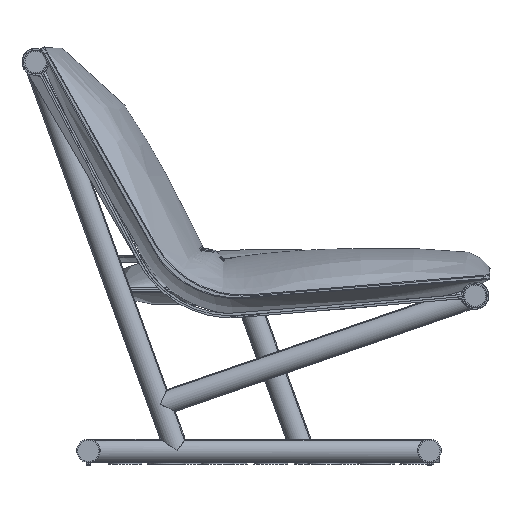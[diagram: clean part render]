
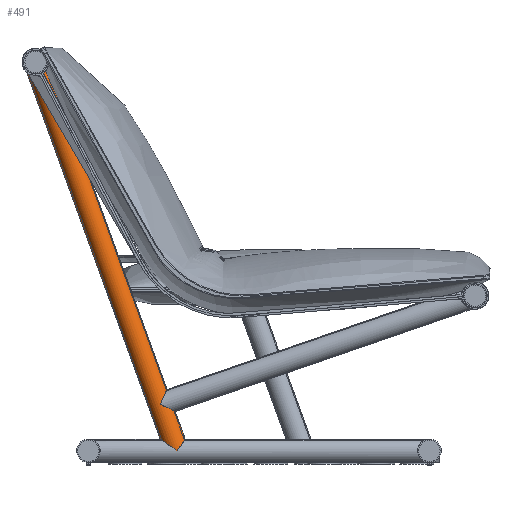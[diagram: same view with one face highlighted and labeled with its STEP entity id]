
A CAD part, left-side view. The second image highlights one B-rep face of the part: STEP entity #491.
In plain terms, the highlighted cylindrical face has radius 22.5 mm (diameter 45 mm), a partial arc.
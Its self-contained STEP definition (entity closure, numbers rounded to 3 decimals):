
#491=ADVANCED_FACE('',(#875),#5547,.T.);
#875=FACE_OUTER_BOUND('',#1273,.T.);
#1273=EDGE_LOOP('',(#2519,#2520,#2521,#2522,#2523,#2524,#2525,#2526,#2527));
#2519=ORIENTED_EDGE('',*,*,#3617,.T.);
#2520=ORIENTED_EDGE('',*,*,#3618,.T.);
#2521=ORIENTED_EDGE('',*,*,#3645,.T.);
#2522=ORIENTED_EDGE('',*,*,#3619,.T.);
#2523=ORIENTED_EDGE('',*,*,#3642,.T.);
#2524=ORIENTED_EDGE('',*,*,#3641,.T.);
#2525=ORIENTED_EDGE('',*,*,#3620,.T.);
#2526=ORIENTED_EDGE('',*,*,#3637,.T.);
#2527=ORIENTED_EDGE('',*,*,#3609,.F.);
#3609=EDGE_CURVE('',#5135,#5136,#5669,.T.);
#3617=EDGE_CURVE('',#5135,#5141,#4154,.T.);
#3618=EDGE_CURVE('',#5141,#5142,#5673,.T.);
#3619=EDGE_CURVE('',#5143,#5138,#4155,.T.);
#3620=EDGE_CURVE('',#5140,#5145,#4156,.T.);
#3637=EDGE_CURVE('',#5145,#5136,#5678,.T.);
#3641=EDGE_CURVE('',#5144,#5140,#5681,.T.);
#3642=EDGE_CURVE('',#5138,#5144,#5682,.T.);
#3645=EDGE_CURVE('',#5142,#5143,#5685,.T.);
#4154=(
BOUNDED_CURVE()
B_SPLINE_CURVE(1,(#31823,#31824),.UNSPECIFIED.,.F.,.F.)
B_SPLINE_CURVE_WITH_KNOTS((2,2),(0.,762.5),.UNSPECIFIED.)
CURVE()
GEOMETRIC_REPRESENTATION_ITEM()
RATIONAL_B_SPLINE_CURVE((1.,1.))
REPRESENTATION_ITEM('')
);
#4155=(
BOUNDED_CURVE()
B_SPLINE_CURVE(1,(#31835,#31836),.UNSPECIFIED.,.F.,.F.)
B_SPLINE_CURVE_WITH_KNOTS((2,2),(0.,56.732),.UNSPECIFIED.)
CURVE()
GEOMETRIC_REPRESENTATION_ITEM()
RATIONAL_B_SPLINE_CURVE((1.,1.))
REPRESENTATION_ITEM('')
);
#4156=(
BOUNDED_CURVE()
B_SPLINE_CURVE(1,(#31837,#31838),.UNSPECIFIED.,.F.,.F.)
B_SPLINE_CURVE_WITH_KNOTS((2,2),(0.,677.139),.UNSPECIFIED.)
CURVE()
GEOMETRIC_REPRESENTATION_ITEM()
RATIONAL_B_SPLINE_CURVE((1.,1.))
REPRESENTATION_ITEM('')
);
#5135=VERTEX_POINT('',#31097);
#5136=VERTEX_POINT('',#31098);
#5138=VERTEX_POINT('',#31100);
#5140=VERTEX_POINT('',#31102);
#5141=VERTEX_POINT('',#31103);
#5142=VERTEX_POINT('',#31104);
#5143=VERTEX_POINT('',#31105);
#5144=VERTEX_POINT('',#31106);
#5145=VERTEX_POINT('',#31107);
#5547=CYLINDRICAL_SURFACE('',#6299,22.5);
#5669=B_SPLINE_CURVE_WITH_KNOTS('',3,(#31768,#31769,#31770,#31771,#31772,
#31773,#31774,#31775),.UNSPECIFIED.,.F.,.F.,(4,2,2,4),(0.,8.869,
17.734,35.363),.UNSPECIFIED.);
#5673=B_SPLINE_CURVE_WITH_KNOTS('',3,(#31825,#31826,#31827,#31828,#31829,
#31830,#31831,#31832,#31833,#31834),.UNSPECIFIED.,.F.,.F.,(4,2,2,2,4),(0.,
12.921,25.446,37.634,49.855),
 .UNSPECIFIED.);
#5678=B_SPLINE_CURVE_WITH_KNOTS('',3,(#31917,#31918,#31919,#31920,#31921,
#31922,#31923,#31924,#31925,#31926,#31927,#31928,#31929,#31930),
 .UNSPECIFIED.,.F.,.F.,(4,3,2,2,3,4),(-51.639,-40.614,
-32.588,-24.564,-8.083,0.),.UNSPECIFIED.);
#5681=B_SPLINE_CURVE_WITH_KNOTS('',3,(#31966,#31967,#31968,#31969,#31970,
#31971,#31972,#31973,#31974,#31975),.UNSPECIFIED.,.F.,.F.,(4,2,2,2,4),(-43.067,
-32.486,-21.915,-11.059,0.),.UNSPECIFIED.);
#5682=B_SPLINE_CURVE_WITH_KNOTS('',3,(#31976,#31977,#31978,#31979,#31980,
#31981,#31982,#31983,#31984,#31985),.UNSPECIFIED.,.F.,.F.,(4,2,2,2,4),(-43.547,
-32.349,-21.375,-10.694,0.),.UNSPECIFIED.);
#5685=B_SPLINE_CURVE_WITH_KNOTS('',3,(#32004,#32005,#32006,#32007,#32008,
#32009,#32010,#32011),.UNSPECIFIED.,.F.,.F.,(4,2,2,4),(-40.186,
-30.286,-20.383,0.),.UNSPECIFIED.);
#6299=AXIS2_PLACEMENT_3D('',#31005,#7037,$);
#7037=DIRECTION('',(0.,-0.342,-0.94));
#31005=CARTESIAN_POINT('',(0.,315.893,400.856));
#31097=CARTESIAN_POINT('',(0.,472.926,766.516));
#31098=CARTESIAN_POINT('',(-21.143,451.783,751.711));
#31100=CARTESIAN_POINT('',(0.,183.652,103.311));
#31102=CARTESIAN_POINT('',(0.,199.045,145.604));
#31103=CARTESIAN_POINT('',(0.,212.136,50.));
#31104=CARTESIAN_POINT('',(-22.5,180.003,27.5));
#31105=CARTESIAN_POINT('',(0.,164.248,50.));
#31106=CARTESIAN_POINT('',(-22.5,212.626,117.131));
#31107=CARTESIAN_POINT('',(0.,430.64,781.907));
#31768=CARTESIAN_POINT('',(0.,472.926,766.516));
#31769=CARTESIAN_POINT('',(-2.045,472.227,764.594));
#31770=CARTESIAN_POINT('',(-4.1,471.262,762.758));
#31771=CARTESIAN_POINT('',(-8.11,468.828,759.377));
#31772=CARTESIAN_POINT('',(-10.089,467.345,757.811));
#31773=CARTESIAN_POINT('',(-15.676,462.139,753.759));
#31774=CARTESIAN_POINT('',(-19.231,457.373,751.711));
#31775=CARTESIAN_POINT('',(-21.143,451.783,751.711));
#31823=CARTESIAN_POINT('',(0.,472.926,766.516));
#31824=CARTESIAN_POINT('',(0.,212.136,50.));
#31825=CARTESIAN_POINT('',(0.,212.136,50.));
#31826=CARTESIAN_POINT('',(-4.42,212.136,50.));
#31827=CARTESIAN_POINT('',(-8.269,210.295,48.711));
#31828=CARTESIAN_POINT('',(-14.18,205.409,45.29));
#31829=CARTESIAN_POINT('',(-16.4,202.338,43.139));
#31830=CARTESIAN_POINT('',(-19.592,196.244,38.872));
#31831=CARTESIAN_POINT('',(-20.706,193.02,36.615));
#31832=CARTESIAN_POINT('',(-22.149,186.588,32.111));
#31833=CARTESIAN_POINT('',(-22.5,183.277,29.792));
#31834=CARTESIAN_POINT('',(-22.5,180.003,27.5));
#31835=CARTESIAN_POINT('',(0.,164.248,50.));
#31836=CARTESIAN_POINT('',(0.,183.652,103.311));
#31837=CARTESIAN_POINT('',(0.,199.045,145.604));
#31838=CARTESIAN_POINT('',(0.,430.64,781.907));
#31917=CARTESIAN_POINT('',(0.,430.64,781.907));
#31918=CARTESIAN_POINT('',(-2.584,429.756,779.478));
#31919=CARTESIAN_POINT('',(-5.191,429.283,776.876));
#31920=CARTESIAN_POINT('',(-7.695,429.283,774.211));
#31921=CARTESIAN_POINT('',(-9.496,429.283,772.295));
#31922=CARTESIAN_POINT('',(-11.264,429.528,770.324));
#31923=CARTESIAN_POINT('',(-14.597,430.588,766.392));
#31924=CARTESIAN_POINT('',(-16.183,431.41,764.405));
#31925=CARTESIAN_POINT('',(-20.444,434.964,758.577));
#31926=CARTESIAN_POINT('',(-22.5,438.83,754.982));
#31927=CARTESIAN_POINT('',(-22.5,444.088,753.068));
#31928=CARTESIAN_POINT('',(-22.5,446.626,752.144));
#31929=CARTESIAN_POINT('',(-22.014,449.236,751.711));
#31930=CARTESIAN_POINT('',(-21.143,451.783,751.711));
#31966=CARTESIAN_POINT('',(-22.5,212.626,117.131));
#31967=CARTESIAN_POINT('',(-22.5,211.123,120.281));
#31968=CARTESIAN_POINT('',(-22.087,209.609,123.456));
#31969=CARTESIAN_POINT('',(-20.4,206.692,129.57));
#31970=CARTESIAN_POINT('',(-19.11,205.263,132.567));
#31971=CARTESIAN_POINT('',(-15.51,202.637,138.073));
#31972=CARTESIAN_POINT('',(-13.126,201.417,140.63));
#31973=CARTESIAN_POINT('',(-7.187,199.598,144.445));
#31974=CARTESIAN_POINT('',(-3.713,199.045,145.604));
#31975=CARTESIAN_POINT('',(0.,199.045,145.604));
#31976=CARTESIAN_POINT('',(0.,183.652,103.311));
#31977=CARTESIAN_POINT('',(-3.763,183.652,103.311));
#31978=CARTESIAN_POINT('',(-7.267,184.862,103.888));
#31979=CARTESIAN_POINT('',(-13.216,188.793,105.763));
#31980=CARTESIAN_POINT('',(-15.589,191.413,107.013));
#31981=CARTESIAN_POINT('',(-19.155,197.012,109.684));
#31982=CARTESIAN_POINT('',(-20.429,200.051,111.133));
#31983=CARTESIAN_POINT('',(-22.093,206.235,114.083));
#31984=CARTESIAN_POINT('',(-22.5,209.443,115.613));
#31985=CARTESIAN_POINT('',(-22.5,212.626,117.131));
#32004=CARTESIAN_POINT('',(-22.5,180.003,27.5));
#32005=CARTESIAN_POINT('',(-22.5,178.145,30.153));
#32006=CARTESIAN_POINT('',(-22.031,176.282,32.814));
#32007=CARTESIAN_POINT('',(-20.139,172.726,37.893));
#32008=CARTESIAN_POINT('',(-18.711,171.024,40.324));
#32009=CARTESIAN_POINT('',(-12.855,166.424,46.892));
#32010=CARTESIAN_POINT('',(-6.894,164.248,50.));
#32011=CARTESIAN_POINT('',(0.,164.248,50.));
